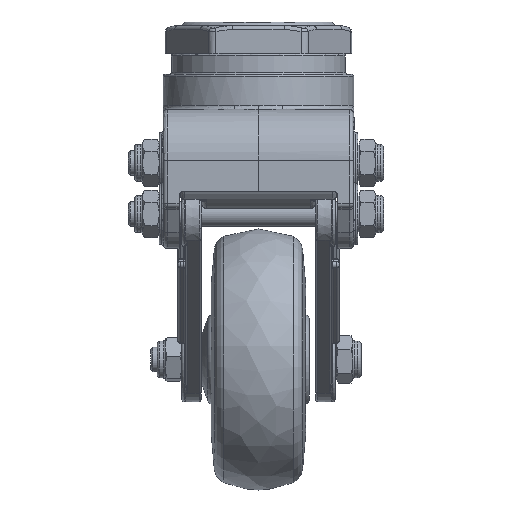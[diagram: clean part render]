
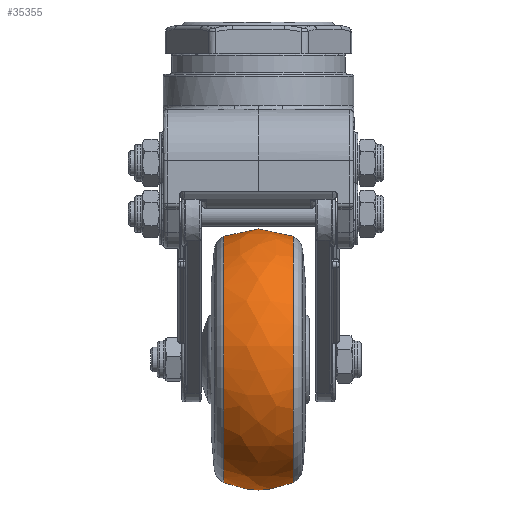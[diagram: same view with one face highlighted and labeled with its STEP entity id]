
A CAD part, left-side view. The second image highlights one B-rep face of the part: STEP entity #35355.
In plain terms, the highlighted free-form (B-spline) face has degree [2, 2] with [3, 9] control points.
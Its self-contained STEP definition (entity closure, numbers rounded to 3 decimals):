
#192=(
BOUNDED_SURFACE()
B_SPLINE_SURFACE(2,2,((#49777,#49778,#49779,#49780,#49781,#49782,#49783,
#49784,#49785),(#49786,#49787,#49788,#49789,#49790,#49791,#49792,#49793,
#49794),(#49795,#49796,#49797,#49798,#49799,#49800,#49801,#49802,#49803)),
 .UNSPECIFIED.,.F.,.T.,.F.)
B_SPLINE_SURFACE_WITH_KNOTS((3,3),(3,2,2,2,3),(-0.438,0.438),
(-3.142,-1.571,0.,1.571,3.142),
 .UNSPECIFIED.)
GEOMETRIC_REPRESENTATION_ITEM()
RATIONAL_B_SPLINE_SURFACE(((1.,0.707,1.,0.707,1.,
0.707,1.,0.707,1.),(0.906,0.64,
0.906,0.64,0.906,0.64,
0.906,0.64,0.906),(1.,0.707,
1.,0.707,1.,0.707,1.,0.707,1.)))
REPRESENTATION_ITEM('')
SURFACE()
);
#2375=FACE_OUTER_BOUND('',#4405,.T.);
#4405=EDGE_LOOP('',(#23258,#23259,#23260,#23261,#23262,#23263));
#6583=CIRCLE('',#37562,30.112);
#6584=CIRCLE('',#37563,30.112);
#6585=CIRCLE('',#37564,20.);
#6586=CIRCLE('',#37565,30.112);
#6587=CIRCLE('',#37566,30.112);
#14286=VERTEX_POINT('',#49804);
#14287=VERTEX_POINT('',#49805);
#14288=VERTEX_POINT('',#49808);
#14289=VERTEX_POINT('',#49810);
#17765=EDGE_CURVE('',#14286,#14287,#6583,.T.);
#17766=EDGE_CURVE('',#14287,#14286,#6584,.T.);
#17767=EDGE_CURVE('',#14287,#14288,#6585,.T.);
#17768=EDGE_CURVE('',#14288,#14289,#6586,.T.);
#17769=EDGE_CURVE('',#14289,#14288,#6587,.T.);
#23258=ORIENTED_EDGE('',*,*,#17765,.F.);
#23259=ORIENTED_EDGE('',*,*,#17766,.F.);
#23260=ORIENTED_EDGE('',*,*,#17767,.T.);
#23261=ORIENTED_EDGE('',*,*,#17768,.T.);
#23262=ORIENTED_EDGE('',*,*,#17769,.T.);
#23263=ORIENTED_EDGE('',*,*,#17767,.F.);
#35355=ADVANCED_FACE('',(#2375),#192,.F.);
#37562=AXIS2_PLACEMENT_3D('',#49806,#40559,#40560);
#37563=AXIS2_PLACEMENT_3D('',#49807,#40561,#40562);
#37564=AXIS2_PLACEMENT_3D('',#49809,#40563,#40564);
#37565=AXIS2_PLACEMENT_3D('',#49811,#40565,#40566);
#37566=AXIS2_PLACEMENT_3D('',#49812,#40567,#40568);
#40559=DIRECTION('center_axis',(0.,-1.,0.));
#40560=DIRECTION('ref_axis',(-0.282,0.,-0.959));
#40561=DIRECTION('center_axis',(0.,-1.,0.));
#40562=DIRECTION('ref_axis',(-0.282,0.,-0.959));
#40563=DIRECTION('center_axis',(-0.959,0.,
0.282));
#40564=DIRECTION('ref_axis',(0.282,0.,0.959));
#40565=DIRECTION('center_axis',(0.,-1.,0.));
#40566=DIRECTION('ref_axis',(-0.282,0.,-0.959));
#40567=DIRECTION('center_axis',(0.,-1.,0.));
#40568=DIRECTION('ref_axis',(-0.282,0.,-0.959));
#49777=CARTESIAN_POINT('Ctrl Pts',(12.937,5.059,-42.192));
#49778=CARTESIAN_POINT('Ctrl Pts',(-15.955,5.059,-33.704));
#49779=CARTESIAN_POINT('Ctrl Pts',(-24.443,5.059,-62.595));
#49780=CARTESIAN_POINT('Ctrl Pts',(-32.931,5.059,-91.486));
#49781=CARTESIAN_POINT('Ctrl Pts',(-4.04,5.059,-99.974));
#49782=CARTESIAN_POINT('Ctrl Pts',(24.851,5.059,-108.463));
#49783=CARTESIAN_POINT('Ctrl Pts',(33.34,5.059,-79.571));
#49784=CARTESIAN_POINT('Ctrl Pts',(41.828,5.059,-50.68));
#49785=CARTESIAN_POINT('Ctrl Pts',(12.937,5.059,-42.192));
#49786=CARTESIAN_POINT('Ctrl Pts',(14.056,-3.423,-38.381));
#49787=CARTESIAN_POINT('Ctrl Pts',(-18.646,-3.423,
-28.773));
#49788=CARTESIAN_POINT('Ctrl Pts',(-28.254,-3.423,
-61.475));
#49789=CARTESIAN_POINT('Ctrl Pts',(-37.862,-3.423,
-94.178));
#49790=CARTESIAN_POINT('Ctrl Pts',(-5.159,-3.423,-103.786));
#49791=CARTESIAN_POINT('Ctrl Pts',(27.543,-3.423,-113.394));
#49792=CARTESIAN_POINT('Ctrl Pts',(37.151,-3.423,-80.691));
#49793=CARTESIAN_POINT('Ctrl Pts',(46.759,-3.423,-47.989));
#49794=CARTESIAN_POINT('Ctrl Pts',(14.056,-3.423,-38.381));
#49795=CARTESIAN_POINT('Ctrl Pts',(12.937,-11.905,-42.192));
#49796=CARTESIAN_POINT('Ctrl Pts',(-15.955,-11.905,-33.704));
#49797=CARTESIAN_POINT('Ctrl Pts',(-24.443,-11.905,
-62.595));
#49798=CARTESIAN_POINT('Ctrl Pts',(-32.931,-11.905,
-91.486));
#49799=CARTESIAN_POINT('Ctrl Pts',(-4.04,-11.905,
-99.974));
#49800=CARTESIAN_POINT('Ctrl Pts',(24.851,-11.905,-108.463));
#49801=CARTESIAN_POINT('Ctrl Pts',(33.34,-11.905,-79.571));
#49802=CARTESIAN_POINT('Ctrl Pts',(41.828,-11.905,-50.68));
#49803=CARTESIAN_POINT('Ctrl Pts',(12.937,-11.905,-42.192));
#49804=CARTESIAN_POINT('',(-4.04,-11.905,-99.974));
#49805=CARTESIAN_POINT('',(12.937,-11.905,-42.192));
#49806=CARTESIAN_POINT('Origin',(4.448,-11.905,-71.083));
#49807=CARTESIAN_POINT('Origin',(4.448,-11.905,-71.083));
#49808=CARTESIAN_POINT('',(12.937,5.059,-42.192));
#49809=CARTESIAN_POINT('Origin',(7.831,-3.423,-59.57));
#49810=CARTESIAN_POINT('',(-4.04,5.059,-99.974));
#49811=CARTESIAN_POINT('Origin',(4.448,5.059,-71.083));
#49812=CARTESIAN_POINT('Origin',(4.448,5.059,-71.083));
